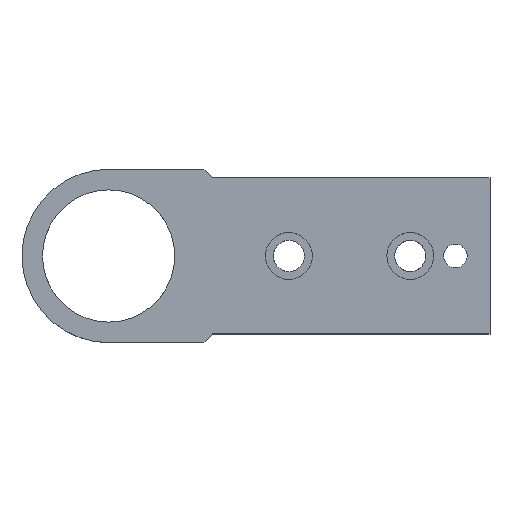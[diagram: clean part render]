
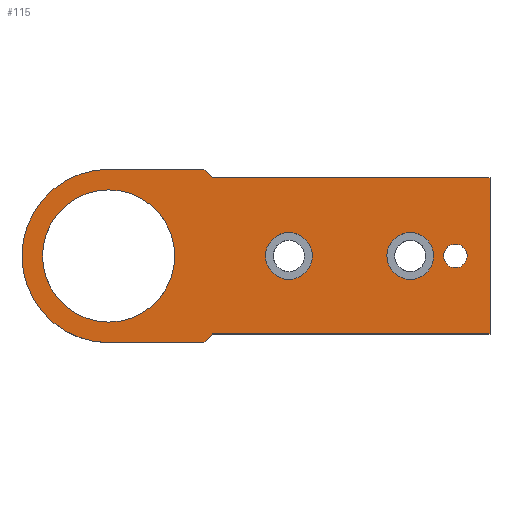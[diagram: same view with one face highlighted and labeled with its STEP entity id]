
A CAD part, top view. The second image highlights one B-rep face of the part: STEP entity #115.
In plain terms, the highlighted planar face has unit normal (0, 0, 1).
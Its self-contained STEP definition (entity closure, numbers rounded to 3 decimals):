
#14 = VERTEX_POINT ( 'NONE', #559 ) ;
#39 = ORIENTED_EDGE ( 'NONE', *, *, #150, .T. ) ;
#40 = EDGE_LOOP ( 'NONE', ( #106, #123, #126, #122, #119, #39, #125, #235, #222 ) ) ;
#41 = VERTEX_POINT ( 'NONE', #540 ) ;
#43 = EDGE_CURVE ( 'NONE', #14, #41, #590, .T. ) ;
#98 = ORIENTED_EDGE ( 'NONE', *, *, #336, .F. ) ;
#103 = ORIENTED_EDGE ( 'NONE', *, *, #43, .F. ) ;
#104 = EDGE_LOOP ( 'NONE', ( #108, #103 ) ) ;
#105 = EDGE_CURVE ( 'NONE', #41, #14, #677, .T. ) ;
#106 = ORIENTED_EDGE ( 'NONE', *, *, #118, .T. ) ;
#108 = ORIENTED_EDGE ( 'NONE', *, *, #105, .F. ) ;
#109 = EDGE_CURVE ( 'NONE', #345, #343, #676, .T. ) ;
#110 = ORIENTED_EDGE ( 'NONE', *, *, #113, .F. ) ;
#112 = EDGE_LOOP ( 'NONE', ( #114, #98 ) ) ;
#113 = EDGE_CURVE ( 'NONE', #289, #297, #660, .T. ) ;
#114 = ORIENTED_EDGE ( 'NONE', *, *, #109, .F. ) ;
#115 = ADVANCED_FACE ( 'NONE', ( #685, #686, #659, #714, #665 ), #684, .T. ) ;
#116 = EDGE_LOOP ( 'NONE', ( #110, #117 ) ) ;
#117 = ORIENTED_EDGE ( 'NONE', *, *, #355, .F. ) ;
#118 = EDGE_CURVE ( 'NONE', #120, #129, #710, .T. ) ;
#119 = ORIENTED_EDGE ( 'NONE', *, *, #151, .T. ) ;
#120 = VERTEX_POINT ( 'NONE', #712 ) ;
#122 = ORIENTED_EDGE ( 'NONE', *, *, #273, .T. ) ;
#123 = ORIENTED_EDGE ( 'NONE', *, *, #130, .T. ) ;
#124 = EDGE_CURVE ( 'NONE', #128, #274, #699, .T. ) ;
#125 = ORIENTED_EDGE ( 'NONE', *, *, #131, .T. ) ;
#126 = ORIENTED_EDGE ( 'NONE', *, *, #124, .T. ) ;
#127 = VERTEX_POINT ( 'NONE', #700 ) ;
#128 = VERTEX_POINT ( 'NONE', #707 ) ;
#129 = VERTEX_POINT ( 'NONE', #693 ) ;
#130 = EDGE_CURVE ( 'NONE', #129, #128, #694, .T. ) ;
#131 = EDGE_CURVE ( 'NONE', #149, #147, #747, .T. ) ;
#147 = VERTEX_POINT ( 'NONE', #783 ) ;
#149 = VERTEX_POINT ( 'NONE', #723 ) ;
#150 = EDGE_CURVE ( 'NONE', #127, #149, #768, .T. ) ;
#151 = EDGE_CURVE ( 'NONE', #278, #127, #762, .T. ) ;
#197 = VERTEX_POINT ( 'NONE', #863 ) ;
#199 = EDGE_CURVE ( 'NONE', #147, #197, #855, .T. ) ;
#205 = EDGE_CURVE ( 'NONE', #197, #120, #843, .T. ) ;
#216 = EDGE_CURVE ( 'NONE', #360, #425, #893, .T. ) ;
#217 = ORIENTED_EDGE ( 'NONE', *, *, #216, .T. ) ;
#222 = ORIENTED_EDGE ( 'NONE', *, *, #205, .T. ) ;
#233 = ORIENTED_EDGE ( 'NONE', *, *, #426, .T. ) ;
#235 = ORIENTED_EDGE ( 'NONE', *, *, #199, .T. ) ;
#273 = EDGE_CURVE ( 'NONE', #274, #278, #945, .T. ) ;
#274 = VERTEX_POINT ( 'NONE', #992 ) ;
#278 = VERTEX_POINT ( 'NONE', #988 ) ;
#289 = VERTEX_POINT ( 'NONE', #1023 ) ;
#297 = VERTEX_POINT ( 'NONE', #1014 ) ;
#336 = EDGE_CURVE ( 'NONE', #343, #345, #1104, .T. ) ;
#343 = VERTEX_POINT ( 'NONE', #1092 ) ;
#345 = VERTEX_POINT ( 'NONE', #1086 ) ;
#355 = EDGE_CURVE ( 'NONE', #297, #289, #1134, .T. ) ;
#360 = VERTEX_POINT ( 'NONE', #1126 ) ;
#425 = VERTEX_POINT ( 'NONE', #1205 ) ;
#426 = EDGE_CURVE ( 'NONE', #425, #360, #1246, .T. ) ;
#442 = EDGE_LOOP ( 'NONE', ( #233, #217 ) ) ;
#540 = CARTESIAN_POINT ( 'NONE',  ( 103.4, 0., 6. ) ) ;
#559 = CARTESIAN_POINT ( 'NONE',  ( 96.6, 0., 6. ) ) ;
#586 = DIRECTION ( 'NONE',  ( 1., 0., 0. ) ) ;
#587 = DIRECTION ( 'NONE',  ( 0., 0., 1. ) ) ;
#588 = CARTESIAN_POINT ( 'NONE',  ( 100., 0., 6. ) ) ;
#589 = AXIS2_PLACEMENT_3D ( 'NONE', #588, #587, #586 ) ;
#590 = CIRCLE ( 'NONE', #589, 3.4 ) ;
#659 = FACE_BOUND ( 'NONE', #112, .T. ) ;
#660 = CIRCLE ( 'NONE', #718, 6.75 ) ;
#661 = DIRECTION ( 'NONE',  ( 1., 0., 0. ) ) ;
#662 = DIRECTION ( 'NONE',  ( 0., 0., 1. ) ) ;
#663 = AXIS2_PLACEMENT_3D ( 'NONE', #669, #662, #661 ) ;
#664 = AXIS2_PLACEMENT_3D ( 'NONE', #671, #670, #708 ) ;
#665 = FACE_BOUND ( 'NONE', #442, .T. ) ;
#666 = DIRECTION ( 'NONE',  ( 1., 0., 0. ) ) ;
#667 = DIRECTION ( 'NONE',  ( 0., 0., 1. ) ) ;
#668 = CARTESIAN_POINT ( 'NONE',  ( 100., 0., 6. ) ) ;
#669 = CARTESIAN_POINT ( 'NONE',  ( 87., 0., 6. ) ) ;
#670 = DIRECTION ( 'NONE',  ( 0., 0., 1. ) ) ;
#671 = CARTESIAN_POINT ( 'NONE',  ( 0., 0., 6. ) ) ;
#676 = CIRCLE ( 'NONE', #663, 6.75 ) ;
#677 = CIRCLE ( 'NONE', #682, 3.4 ) ;
#682 = AXIS2_PLACEMENT_3D ( 'NONE', #668, #667, #666 ) ;
#684 = PLANE ( 'NONE',  #664 ) ;
#685 = FACE_BOUND ( 'NONE', #104, .T. ) ;
#686 = FACE_BOUND ( 'NONE', #116, .T. ) ;
#691 = CARTESIAN_POINT ( 'NONE',  ( 110., -22.5, 6. ) ) ;
#693 = CARTESIAN_POINT ( 'NONE',  ( 27.5, 25., 6. ) ) ;
#694 = LINE ( 'NONE', #751, #750 ) ;
#695 = DIRECTION ( 'NONE',  ( 1., 0., 0. ) ) ;
#696 = DIRECTION ( 'NONE',  ( 0., 0., 1. ) ) ;
#697 = AXIS2_PLACEMENT_3D ( 'NONE', #713, #696, #695 ) ;
#699 = CIRCLE ( 'NONE', #697, 25. ) ;
#700 = CARTESIAN_POINT ( 'NONE',  ( 27.5, -25., 6. ) ) ;
#705 = VECTOR ( 'NONE', #711, 1000. ) ;
#707 = CARTESIAN_POINT ( 'NONE',  ( 0., 25., 6. ) ) ;
#708 = DIRECTION ( 'NONE',  ( 1., 0., 0. ) ) ;
#709 = CARTESIAN_POINT ( 'NONE',  ( 27.5, 25., 6. ) ) ;
#710 = LINE ( 'NONE', #709, #705 ) ;
#711 = DIRECTION ( 'NONE',  ( -0.707, 0.707, 0. ) ) ;
#712 = CARTESIAN_POINT ( 'NONE',  ( 30., 22.5, 6. ) ) ;
#713 = CARTESIAN_POINT ( 'NONE',  ( 0., 0., 6. ) ) ;
#714 = FACE_OUTER_BOUND ( 'NONE', #40, .T. ) ;
#715 = DIRECTION ( 'NONE',  ( 1., 0., 0. ) ) ;
#716 = DIRECTION ( 'NONE',  ( 0., 0., 1. ) ) ;
#717 = CARTESIAN_POINT ( 'NONE',  ( 52., 0., 6. ) ) ;
#718 = AXIS2_PLACEMENT_3D ( 'NONE', #717, #716, #715 ) ;
#723 = CARTESIAN_POINT ( 'NONE',  ( 30., -22.5, 6. ) ) ;
#745 = DIRECTION ( 'NONE',  ( 1., 0., 0. ) ) ;
#746 = VECTOR ( 'NONE', #745, 1000. ) ;
#747 = LINE ( 'NONE', #691, #746 ) ;
#749 = DIRECTION ( 'NONE',  ( -1., 0., 0. ) ) ;
#750 = VECTOR ( 'NONE', #749, 1000. ) ;
#751 = CARTESIAN_POINT ( 'NONE',  ( 0., 25., 6. ) ) ;
#760 = DIRECTION ( 'NONE',  ( 1., 0., 0. ) ) ;
#761 = VECTOR ( 'NONE', #760, 1000. ) ;
#762 = LINE ( 'NONE', #767, #761 ) ;
#764 = DIRECTION ( 'NONE',  ( 0.707, 0.707, 0. ) ) ;
#765 = VECTOR ( 'NONE', #764, 1000. ) ;
#766 = CARTESIAN_POINT ( 'NONE',  ( 27.5, -25., 6. ) ) ;
#767 = CARTESIAN_POINT ( 'NONE',  ( 0., -25., 6. ) ) ;
#768 = LINE ( 'NONE', #766, #765 ) ;
#783 = CARTESIAN_POINT ( 'NONE',  ( 110., -22.5, 6. ) ) ;
#843 = LINE ( 'NONE', #904, #903 ) ;
#853 = DIRECTION ( 'NONE',  ( 0., 1., 0. ) ) ;
#854 = VECTOR ( 'NONE', #853, 1000. ) ;
#855 = LINE ( 'NONE', #860, #854 ) ;
#860 = CARTESIAN_POINT ( 'NONE',  ( 110., 22.5, 6. ) ) ;
#863 = CARTESIAN_POINT ( 'NONE',  ( 110., 22.5, 6. ) ) ;
#874 = DIRECTION ( 'NONE',  ( 1., 0., 0. ) ) ;
#875 = DIRECTION ( 'NONE',  ( 0., 0., -1. ) ) ;
#876 = AXIS2_PLACEMENT_3D ( 'NONE', #882, #875, #874 ) ;
#882 = CARTESIAN_POINT ( 'NONE',  ( 0., 0., 6. ) ) ;
#893 = CIRCLE ( 'NONE', #876, 19.079 ) ;
#902 = DIRECTION ( 'NONE',  ( -1., 0., 0. ) ) ;
#903 = VECTOR ( 'NONE', #902, 1000. ) ;
#904 = CARTESIAN_POINT ( 'NONE',  ( 30., 22.5, 6. ) ) ;
#939 = CARTESIAN_POINT ( 'NONE',  ( 0., 0., 6. ) ) ;
#945 = CIRCLE ( 'NONE', #956, 25. ) ;
#956 = AXIS2_PLACEMENT_3D ( 'NONE', #939, #991, #990 ) ;
#988 = CARTESIAN_POINT ( 'NONE',  ( 0., -25., 6. ) ) ;
#990 = DIRECTION ( 'NONE',  ( 1., 0., 0. ) ) ;
#991 = DIRECTION ( 'NONE',  ( 0., 0., 1. ) ) ;
#992 = CARTESIAN_POINT ( 'NONE',  ( -25., 0., 6. ) ) ;
#1014 = CARTESIAN_POINT ( 'NONE',  ( 45.25, 0., 6. ) ) ;
#1023 = CARTESIAN_POINT ( 'NONE',  ( 58.75, 0., 6. ) ) ;
#1086 = CARTESIAN_POINT ( 'NONE',  ( 93.75, 0., 6. ) ) ;
#1092 = CARTESIAN_POINT ( 'NONE',  ( 80.25, 0., 6. ) ) ;
#1101 = DIRECTION ( 'NONE',  ( 1., 0., 0. ) ) ;
#1102 = DIRECTION ( 'NONE',  ( 0., 0., 1. ) ) ;
#1103 = AXIS2_PLACEMENT_3D ( 'NONE', #1112, #1102, #1101 ) ;
#1104 = CIRCLE ( 'NONE', #1103, 6.75 ) ;
#1112 = CARTESIAN_POINT ( 'NONE',  ( 87., 0., 6. ) ) ;
#1123 = DIRECTION ( 'NONE',  ( 1., 0., 0. ) ) ;
#1124 = DIRECTION ( 'NONE',  ( 0., 0., 1. ) ) ;
#1125 = CARTESIAN_POINT ( 'NONE',  ( 52., 0., 6. ) ) ;
#1126 = CARTESIAN_POINT ( 'NONE',  ( 19.079, 0., 6. ) ) ;
#1134 = CIRCLE ( 'NONE', #1136, 6.75 ) ;
#1136 = AXIS2_PLACEMENT_3D ( 'NONE', #1125, #1124, #1123 ) ;
#1205 = CARTESIAN_POINT ( 'NONE',  ( -19.079, 0., 6. ) ) ;
#1243 = DIRECTION ( 'NONE',  ( 1., 0., 0. ) ) ;
#1244 = DIRECTION ( 'NONE',  ( 0., 0., -1. ) ) ;
#1245 = AXIS2_PLACEMENT_3D ( 'NONE', #1252, #1244, #1243 ) ;
#1246 = CIRCLE ( 'NONE', #1245, 19.079 ) ;
#1252 = CARTESIAN_POINT ( 'NONE',  ( 0., 0., 6. ) ) ;
